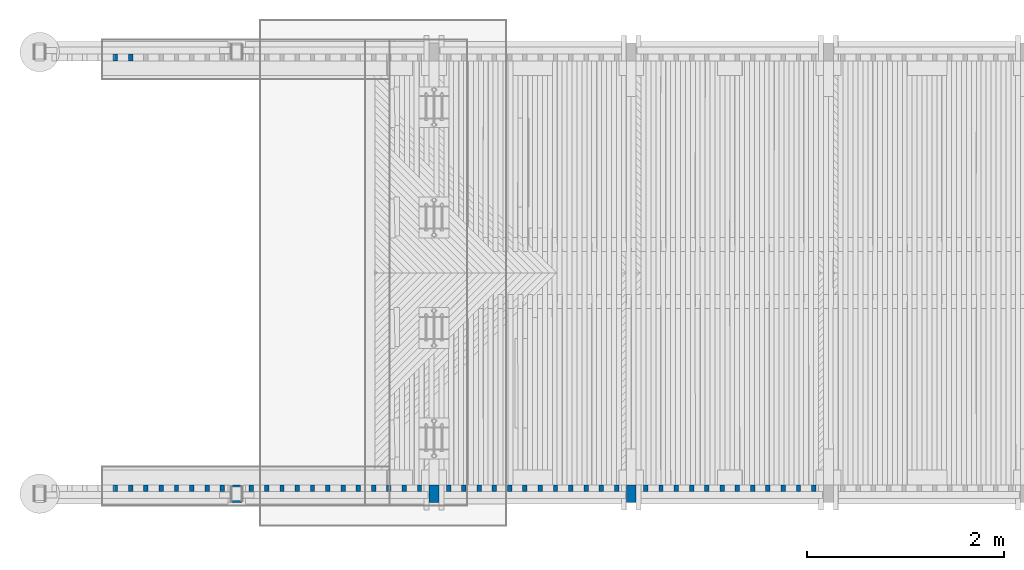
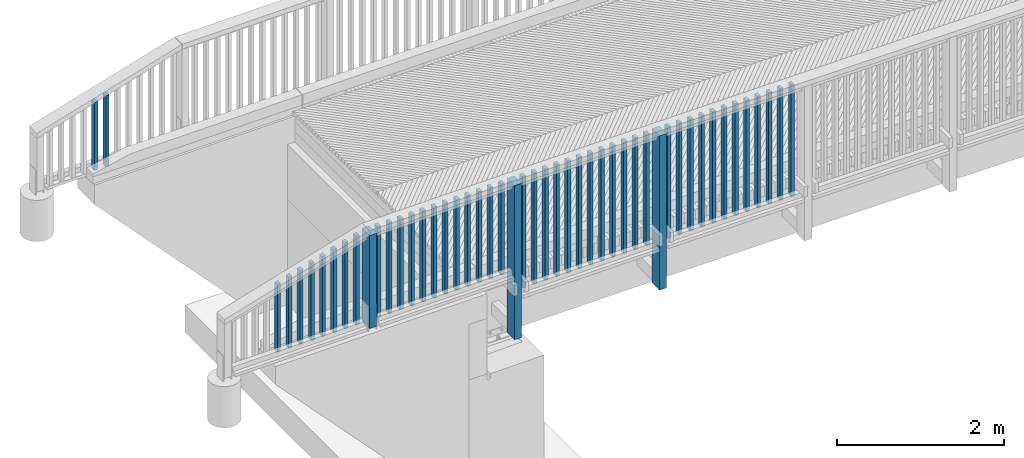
# One storey, part 6 of 52: 49 columns.
"""IFC2X3 building model written with IfcOpenShell, lengths in millimetres."""

from ifc_helpers import new_model, si_unit, frame, origin_with_axes, place, context, subcontext, project, spatial, faceted_brep, material, type_object, element, save


model = new_model("IFC2X3")

# Units and contexts
model_context = context("Model", 3, precision=1e-05, world=origin_with_axes())
body_context = subcontext(model_context, "Body", "Model", "MODEL_VIEW")
ifc_project = project(units=[si_unit("LENGTHUNIT", "METRE", prefix="MILLI"), si_unit("AREAUNIT", "SQUARE_METRE"), si_unit("VOLUMEUNIT", "CUBIC_METRE"), si_unit("MASSUNIT", "GRAM", prefix="KILO"), si_unit("TIMEUNIT", "SECOND"), si_unit("PLANEANGLEUNIT", "RADIAN"), si_unit("SOLIDANGLEUNIT", "STERADIAN"), si_unit("THERMODYNAMICTEMPERATUREUNIT", "DEGREE_CELSIUS"), si_unit("LUMINOUSINTENSITYUNIT", "LUMEN")], contexts=[model_context])

# Site, building, storey
site_placement = place(None, origin_with_axes())
site = spatial("IfcSite", under=ifc_project, at=site_placement, Name="Undefined", CompositionType="ELEMENT")
building_placement = place(site_placement, origin_with_axes())
building = spatial("IfcBuilding", under=site, at=building_placement, Name="Undefined", CompositionType="ELEMENT")
storey_placement = place(building_placement, origin_with_axes())
storey = spatial("IfcBuildingStorey", under=building, at=storey_placement, Name="Undefined", CompositionType="ELEMENT", Elevation=0.0)

# Columns
ifc_material = material(Name="TIMBER/Timber_Undefined")
column_type_1 = type_object("IfcColumnType", Name="180*100", PredefinedType="NOTDEFINED")
for number, where, z_axis, x_axis in (
    (1, (2000.00006783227, 125.01209190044, 2283.46176658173), (0.0, 1.0, 0.0), (0.0, 0.0, 1.0)),
    (2, (7.51175548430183e-07, 125.01209190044, 2260.26), (0.0, 1.0, 0.0), (0.0, 0.0, 1.0)),
):
    element("IfcColumn", number, at=place(storey_placement, frame(where, z_axis=z_axis, x_axis=x_axis)), inside=storey, type_object=column_type_1, material=ifc_material, Name="KAIDEPYLVÄS", ObjectType="180*100", context=body_context, shape_type="Brep", body=[
        faceted_brep([(0.0, 50.0, -90.0), (0.0, 50.0, 90.0), (2250.0, 50.0, 90.0), (2250.0, 50.0, -90.0), (0.0, -50.0, 90.0), (2250.0, -50.0, 90.0), (0.0, -50.0, -90.0), (2250.0, -50.0, -90.0)], [[[0, 1, 2, 3]], [[1, 4, 5, 2]], [[4, 6, 7, 5]], [[6, 0, 3, 7]], [[5, 7, 3, 2]], [[6, 4, 1, 0]]]),
    ])
column_1_placement = place(storey_placement, frame((-1999.99999924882, 125.01209190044, 3128.38000000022), z_axis=(0.0, 1.0, 0.0), x_axis=(0.0, 0.0, 1.0)))
element("IfcColumn", 3, at=column_1_placement, inside=storey, type_object=column_type_1, material=ifc_material, Name="KAIDEPYLVÄS", ObjectType="180*100", context=body_context, shape_type="Brep", body=[
    faceted_brep([(-5.71000000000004, 50.0, -90.0), (-5.71000000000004, 50.0, 90.0), (1352.87649222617, 50.0, 90.0), (1352.87649222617, 50.0, -90.0), (-5.71000000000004, -50.0, 90.0), (1351.21940355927, -50.0, 90.0), (-5.71000000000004, -50.0, -90.0), (1351.21940355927, -50.0, -90.0)], [[[0, 1, 2, 3]], [[1, 4, 5, 2]], [[4, 6, 7, 5]], [[6, 0, 3, 7]], [[5, 7, 3, 2]], [[6, 4, 1, 0]]]),
])
column_type_2 = type_object("IfcColumnType", Name="70*45", PredefinedType="NOTDEFINED")
column_2_placement = place(storey_placement, frame((-3077.49999924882, 4549.98790809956, 3079.15), z_axis=(0.0, 1.0, 0.0), x_axis=(0.0, 0.0, 1.0)))
element("IfcColumn", 4, at=column_2_placement, inside=storey, type_object=column_type_2, material=ifc_material, Name="BEAM", ObjectType="70*45", context=body_context, shape_type="Brep", body=[
    faceted_brep([(55.2401067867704, 22.5, -35.0), (55.2401067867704, 22.5, 35.0), (1098.27970598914, 22.5, 35.0), (1098.27970598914, 22.5, -35.0), (54.5531093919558, -22.5, 35.0), (1084.84420031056, -22.5, 35.0), (54.5531093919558, -22.5, -35.0), (1084.84420031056, -22.5, -35.0)], [[[0, 1, 2, 3]], [[1, 4, 5, 2]], [[4, 6, 7, 5]], [[6, 0, 3, 7]], [[5, 7, 3, 2]], [[6, 4, 1, 0]]]),
])
column_3_placement = place(storey_placement, frame((-3232.49999924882, 4549.98790809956, 3079.15), z_axis=(0.0, 1.0, 0.0), x_axis=(0.0, 0.0, 1.0)))
element("IfcColumn", 5, at=column_3_placement, inside=storey, type_object=column_type_2, material=ifc_material, Name="BEAM", ObjectType="70*45", context=body_context, shape_type="Brep", body=[
    faceted_brep([(52.8737824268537, 22.5, -35.0), (52.8737824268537, 22.5, 35.0), (1052.00185309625, 22.5, 35.0), (1052.00185309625, 22.5, -35.0), (52.1867850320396, -22.5, 35.0), (1038.56634741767, -22.5, 35.0), (52.1867850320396, -22.5, -35.0), (1038.56634741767, -22.5, -35.0)], [[[0, 1, 2, 3]], [[1, 4, 5, 2]], [[4, 6, 7, 5]], [[6, 0, 3, 7]], [[5, 7, 3, 2]], [[6, 4, 1, 0]]]),
])
column_4_placement = place(storey_placement, frame((3852.50000075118, 180.01209190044, 3109.68000000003), z_axis=(0.0, -1.0, 0.0), x_axis=(0.0, 0.0, 1.0)))
element("IfcColumn", 6, at=column_4_placement, inside=storey, type_object=column_type_2, material=ifc_material, Name="BEAM", ObjectType="70*45", context=body_context, shape_type="Brep", body=[
    faceted_brep([(-190.686194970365, 22.5, -35.0), (-190.686194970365, 22.5, 35.0), (1439.30722132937, 22.5, 35.0), (1439.30722132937, 22.5, -35.0), (-190.293697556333, -22.5, 35.0), (1439.6997187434, -22.5, 35.0), (-190.293697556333, -22.5, -35.0), (1439.6997187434, -22.5, -35.0)], [[[0, 1, 2, 3]], [[1, 4, 5, 2]], [[4, 6, 7, 5]], [[6, 0, 3, 7]], [[5, 7, 3, 2]], [[6, 4, 1, 0]]]),
])
column_5_placement = place(storey_placement, frame((3697.50000075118, 180.01209190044, 3109.68000000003), z_axis=(0.0, -1.0, 0.0), x_axis=(0.0, 0.0, 1.0)))
element("IfcColumn", 7, at=column_5_placement, inside=storey, type_object=column_type_2, material=ifc_material, Name="BEAM", ObjectType="70*45", context=body_context, shape_type="Brep", body=[
    faceted_brep([(-192.038130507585, 22.5, -35.0), (-192.038130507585, 22.5, 35.0), (1437.95528579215, 22.5, 35.0), (1437.95528579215, 22.5, -35.0), (-191.645633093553, -22.5, 35.0), (1438.34778320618, -22.5, 35.0), (-191.645633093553, -22.5, -35.0), (1438.34778320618, -22.5, -35.0)], [[[0, 1, 2, 3]], [[1, 4, 5, 2]], [[4, 6, 7, 5]], [[6, 0, 3, 7]], [[5, 7, 3, 2]], [[6, 4, 1, 0]]]),
])
column_6_placement = place(storey_placement, frame((3542.50000075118, 180.01209190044, 3109.68000000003), z_axis=(0.0, -1.0, 0.0), x_axis=(0.0, 0.0, 1.0)))
element("IfcColumn", 8, at=column_6_placement, inside=storey, type_object=column_type_2, material=ifc_material, Name="BEAM", ObjectType="70*45", context=body_context, shape_type="Brep", body=[
    faceted_brep([(-193.390066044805, 22.5, -35.0), (-193.390066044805, 22.5, 35.0), (1436.60335025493, 22.5, 35.0), (1436.60335025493, 22.5, -35.0), (-192.997568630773, -22.5, 35.0), (1436.99584766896, -22.5, 35.0), (-192.997568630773, -22.5, -35.0), (1436.99584766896, -22.5, -35.0)], [[[0, 1, 2, 3]], [[1, 4, 5, 2]], [[4, 6, 7, 5]], [[6, 0, 3, 7]], [[5, 7, 3, 2]], [[6, 4, 1, 0]]]),
])
column_7_placement = place(storey_placement, frame((3387.50000075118, 180.01209190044, 3109.68000000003), z_axis=(0.0, -1.0, 0.0), x_axis=(0.0, 0.0, 1.0)))
element("IfcColumn", 9, at=column_7_placement, inside=storey, type_object=column_type_2, material=ifc_material, Name="BEAM", ObjectType="70*45", context=body_context, shape_type="Brep", body=[
    faceted_brep([(-194.742001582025, 22.5, -35.0), (-194.742001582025, 22.5, 35.0), (1435.25141471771, 22.5, 35.0), (1435.25141471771, 22.5, -35.0), (-194.349504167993, -22.5, 35.0), (1435.64391213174, -22.5, 35.0), (-194.349504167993, -22.5, -35.0), (1435.64391213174, -22.5, -35.0)], [[[0, 1, 2, 3]], [[1, 4, 5, 2]], [[4, 6, 7, 5]], [[6, 0, 3, 7]], [[5, 7, 3, 2]], [[6, 4, 1, 0]]]),
])
column_8_placement = place(storey_placement, frame((3232.50000075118, 180.01209190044, 3109.68000000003), z_axis=(0.0, -1.0, 0.0), x_axis=(0.0, 0.0, 1.0)))
element("IfcColumn", 10, at=column_8_placement, inside=storey, type_object=column_type_2, material=ifc_material, Name="BEAM", ObjectType="70*45", context=body_context, shape_type="Brep", body=[
    faceted_brep([(-196.093937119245, 22.5, -35.0), (-196.093937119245, 22.5, 35.0), (1433.89947918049, 22.5, 35.0), (1433.89947918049, 22.5, -35.0), (-195.701439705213, -22.5, 35.0), (1434.29197659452, -22.5, 35.0), (-195.701439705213, -22.5, -35.0), (1434.29197659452, -22.5, -35.0)], [[[0, 1, 2, 3]], [[1, 4, 5, 2]], [[4, 6, 7, 5]], [[6, 0, 3, 7]], [[5, 7, 3, 2]], [[6, 4, 1, 0]]]),
])
column_9_placement = place(storey_placement, frame((3077.50000075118, 180.01209190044, 3109.68000000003), z_axis=(0.0, -1.0, 0.0), x_axis=(0.0, 0.0, 1.0)))
element("IfcColumn", 11, at=column_9_placement, inside=storey, type_object=column_type_2, material=ifc_material, Name="BEAM", ObjectType="70*45", context=body_context, shape_type="Brep", body=[
    faceted_brep([(-197.445872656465, 22.5, -35.0), (-197.445872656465, 22.5, 35.0), (1432.54754364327, 22.5, 35.0), (1432.54754364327, 22.5, -35.0), (-197.053375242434, -22.5, 35.0), (1432.9400410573, -22.5, 35.0), (-197.053375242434, -22.5, -35.0), (1432.9400410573, -22.5, -35.0)], [[[0, 1, 2, 3]], [[1, 4, 5, 2]], [[4, 6, 7, 5]], [[6, 0, 3, 7]], [[5, 7, 3, 2]], [[6, 4, 1, 0]]]),
])
column_10_placement = place(storey_placement, frame((2922.50000075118, 180.01209190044, 3109.68000000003), z_axis=(0.0, -1.0, 0.0), x_axis=(0.0, 0.0, 1.0)))
element("IfcColumn", 12, at=column_10_placement, inside=storey, type_object=column_type_2, material=ifc_material, Name="BEAM", ObjectType="70*45", context=body_context, shape_type="Brep", body=[
    faceted_brep([(-198.797808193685, 22.5, -35.0), (-198.797808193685, 22.5, 35.0), (1431.19560810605, 22.5, 35.0), (1431.19560810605, 22.5, -35.0), (-198.405310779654, -22.5, 35.0), (1431.58810552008, -22.5, 35.0), (-198.405310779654, -22.5, -35.0), (1431.58810552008, -22.5, -35.0)], [[[0, 1, 2, 3]], [[1, 4, 5, 2]], [[4, 6, 7, 5]], [[6, 0, 3, 7]], [[5, 7, 3, 2]], [[6, 4, 1, 0]]]),
])
column_11_placement = place(storey_placement, frame((2767.50000075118, 180.01209190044, 3109.68000000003), z_axis=(0.0, -1.0, 0.0), x_axis=(0.0, 0.0, 1.0)))
element("IfcColumn", 13, at=column_11_placement, inside=storey, type_object=column_type_2, material=ifc_material, Name="BEAM", ObjectType="70*45", context=body_context, shape_type="Brep", body=[
    faceted_brep([(-200.149743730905, 22.5, -35.0), (-200.149743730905, 22.5, 35.0), (1429.84367256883, 22.5, 35.0), (1429.84367256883, 22.5, -35.0), (-199.757246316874, -22.5, 35.0), (1430.23616998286, -22.5, 35.0), (-199.757246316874, -22.5, -35.0), (1430.23616998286, -22.5, -35.0)], [[[0, 1, 2, 3]], [[1, 4, 5, 2]], [[4, 6, 7, 5]], [[6, 0, 3, 7]], [[5, 7, 3, 2]], [[6, 4, 1, 0]]]),
])
column_12_placement = place(storey_placement, frame((2612.50000075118, 180.01209190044, 3109.68000000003), z_axis=(0.0, -1.0, 0.0), x_axis=(0.0, 0.0, 1.0)))
element("IfcColumn", 14, at=column_12_placement, inside=storey, type_object=column_type_2, material=ifc_material, Name="BEAM", ObjectType="70*45", context=body_context, shape_type="Brep", body=[
    faceted_brep([(-201.501679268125, 22.5, -35.0), (-201.501679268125, 22.5, 35.0), (1428.49173703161, 22.5, 35.0), (1428.49173703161, 22.5, -35.0), (-201.109181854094, -22.5, 35.0), (1428.88423444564, -22.5, 35.0), (-201.109181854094, -22.5, -35.0), (1428.88423444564, -22.5, -35.0)], [[[0, 1, 2, 3]], [[1, 4, 5, 2]], [[4, 6, 7, 5]], [[6, 0, 3, 7]], [[5, 7, 3, 2]], [[6, 4, 1, 0]]]),
])
column_13_placement = place(storey_placement, frame((2457.50000075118, 180.01209190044, 3109.68000000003), z_axis=(0.0, -1.0, 0.0), x_axis=(0.0, 0.0, 1.0)))
element("IfcColumn", 15, at=column_13_placement, inside=storey, type_object=column_type_2, material=ifc_material, Name="BEAM", ObjectType="70*45", context=body_context, shape_type="Brep", body=[
    faceted_brep([(-202.853614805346, 22.5, -35.0), (-202.853614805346, 22.5, 35.0), (1427.13980149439, 22.5, 35.0), (1427.13980149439, 22.5, -35.0), (-202.461117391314, -22.5, 35.0), (1427.53229890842, -22.5, 35.0), (-202.461117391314, -22.5, -35.0), (1427.53229890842, -22.5, -35.0)], [[[0, 1, 2, 3]], [[1, 4, 5, 2]], [[4, 6, 7, 5]], [[6, 0, 3, 7]], [[5, 7, 3, 2]], [[6, 4, 1, 0]]]),
])
column_14_placement = place(storey_placement, frame((2302.50000075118, 180.01209190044, 3109.68000000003), z_axis=(0.0, -1.0, 0.0), x_axis=(0.0, 0.0, 1.0)))
element("IfcColumn", 16, at=column_14_placement, inside=storey, type_object=column_type_2, material=ifc_material, Name="BEAM", ObjectType="70*45", context=body_context, shape_type="Brep", body=[
    faceted_brep([(-204.205550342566, 22.5, -35.0), (-204.205550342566, 22.5, 35.0), (1425.78786595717, 22.5, 35.0), (1425.78786595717, 22.5, -35.0), (-203.813052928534, -22.5, 35.0), (1426.1803633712, -22.5, 35.0), (-203.813052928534, -22.5, -35.0), (1426.1803633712, -22.5, -35.0)], [[[0, 1, 2, 3]], [[1, 4, 5, 2]], [[4, 6, 7, 5]], [[6, 0, 3, 7]], [[5, 7, 3, 2]], [[6, 4, 1, 0]]]),
])
column_15_placement = place(storey_placement, frame((2147.50000075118, 180.01209190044, 3109.68000000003), z_axis=(0.0, -1.0, 0.0), x_axis=(0.0, 0.0, 1.0)))
element("IfcColumn", 17, at=column_15_placement, inside=storey, type_object=column_type_2, material=ifc_material, Name="BEAM", ObjectType="70*45", context=body_context, shape_type="Brep", body=[
    faceted_brep([(-205.557485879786, 22.5, -35.0), (-205.557485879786, 22.5, 35.0), (1424.43593041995, 22.5, 35.0), (1424.43593041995, 22.5, -35.0), (-205.164988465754, -22.5, 35.0), (1424.82842783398, -22.5, 35.0), (-205.164988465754, -22.5, -35.0), (1424.82842783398, -22.5, -35.0)], [[[0, 1, 2, 3]], [[1, 4, 5, 2]], [[4, 6, 7, 5]], [[6, 0, 3, 7]], [[5, 7, 3, 2]], [[6, 4, 1, 0]]]),
])
column_16_placement = place(storey_placement, frame((1852.50000075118, 180.01209190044, 3109.68000000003), z_axis=(0.0, -1.0, 0.0), x_axis=(0.0, 0.0, 1.0)))
element("IfcColumn", 18, at=column_16_placement, inside=storey, type_object=column_type_2, material=ifc_material, Name="BEAM", ObjectType="70*45", context=body_context, shape_type="Brep", body=[
    faceted_brep([(-207.679580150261, 22.5, -35.0), (-207.679580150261, 22.5, 35.0), (1422.31639554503, 22.5, 35.0), (1422.31639554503, 22.5, -35.0), (-207.130064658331, -22.5, 35.0), (1422.86591004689, -22.5, 35.0), (-207.130064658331, -22.5, -35.0), (1422.86591004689, -22.5, -35.0)], [[[0, 1, 2, 3]], [[1, 4, 5, 2]], [[4, 6, 7, 5]], [[6, 0, 3, 7]], [[5, 7, 3, 2]], [[6, 4, 1, 0]]]),
])
column_17_placement = place(storey_placement, frame((1697.50000075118, 180.01209190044, 3109.68000000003), z_axis=(0.0, -1.0, 0.0), x_axis=(0.0, 0.0, 1.0)))
element("IfcColumn", 19, at=column_17_placement, inside=storey, type_object=column_type_2, material=ifc_material, Name="BEAM", ObjectType="70*45", context=body_context, shape_type="Brep", body=[
    faceted_brep([(-209.572355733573, 22.5, -35.0), (-209.572355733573, 22.5, 35.0), (1420.42362337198, 22.5, 35.0), (1420.42362337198, 22.5, -35.0), (-209.022840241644, -22.5, 35.0), (1420.97313787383, -22.5, 35.0), (-209.022840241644, -22.5, -35.0), (1420.97313787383, -22.5, -35.0)], [[[0, 1, 2, 3]], [[1, 4, 5, 2]], [[4, 6, 7, 5]], [[6, 0, 3, 7]], [[5, 7, 3, 2]], [[6, 4, 1, 0]]]),
])
column_18_placement = place(storey_placement, frame((1542.50000075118, 180.01209190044, 3109.68000000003), z_axis=(0.0, -1.0, 0.0), x_axis=(0.0, 0.0, 1.0)))
element("IfcColumn", 20, at=column_18_placement, inside=storey, type_object=column_type_2, material=ifc_material, Name="BEAM", ObjectType="70*45", context=body_context, shape_type="Brep", body=[
    faceted_brep([(-211.465131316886, 22.5, -35.0), (-211.465131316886, 22.5, 35.0), (1418.53085119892, 22.5, 35.0), (1418.53085119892, 22.5, -35.0), (-210.915615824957, -22.5, 35.0), (1419.08036570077, -22.5, 35.0), (-210.915615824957, -22.5, -35.0), (1419.08036570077, -22.5, -35.0)], [[[0, 1, 2, 3]], [[1, 4, 5, 2]], [[4, 6, 7, 5]], [[6, 0, 3, 7]], [[5, 7, 3, 2]], [[6, 4, 1, 0]]]),
])
column_19_placement = place(storey_placement, frame((1387.50000075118, 180.01209190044, 3109.68000000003), z_axis=(0.0, -1.0, 0.0), x_axis=(0.0, 0.0, 1.0)))
element("IfcColumn", 21, at=column_19_placement, inside=storey, type_object=column_type_2, material=ifc_material, Name="BEAM", ObjectType="70*45", context=body_context, shape_type="Brep", body=[
    faceted_brep([(-213.357906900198, 22.5, -35.0), (-213.357906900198, 22.5, 35.0), (1416.63807902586, 22.5, 35.0), (1416.63807902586, 22.5, -35.0), (-212.808391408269, -22.5, 35.0), (1417.18759352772, -22.5, 35.0), (-212.808391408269, -22.5, -35.0), (1417.18759352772, -22.5, -35.0)], [[[0, 1, 2, 3]], [[1, 4, 5, 2]], [[4, 6, 7, 5]], [[6, 0, 3, 7]], [[5, 7, 3, 2]], [[6, 4, 1, 0]]]),
])
column_20_placement = place(storey_placement, frame((1232.50000075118, 180.01209190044, 3109.68000000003), z_axis=(0.0, -1.0, 0.0), x_axis=(0.0, 0.0, 1.0)))
element("IfcColumn", 22, at=column_20_placement, inside=storey, type_object=column_type_2, material=ifc_material, Name="BEAM", ObjectType="70*45", context=body_context, shape_type="Brep", body=[
    faceted_brep([(-215.250682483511, 22.5, -35.0), (-215.250682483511, 22.5, 35.0), (1414.7453068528, 22.5, 35.0), (1414.7453068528, 22.5, -35.0), (-214.701166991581, -22.5, 35.0), (1415.29482135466, -22.5, 35.0), (-214.701166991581, -22.5, -35.0), (1415.29482135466, -22.5, -35.0)], [[[0, 1, 2, 3]], [[1, 4, 5, 2]], [[4, 6, 7, 5]], [[6, 0, 3, 7]], [[5, 7, 3, 2]], [[6, 4, 1, 0]]]),
])
column_21_placement = place(storey_placement, frame((1077.50000075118, 180.01209190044, 3109.68000000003), z_axis=(0.0, -1.0, 0.0), x_axis=(0.0, 0.0, 1.0)))
element("IfcColumn", 23, at=column_21_placement, inside=storey, type_object=column_type_2, material=ifc_material, Name="BEAM", ObjectType="70*45", context=body_context, shape_type="Brep", body=[
    faceted_brep([(-217.143458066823, 22.5, -35.0), (-217.143458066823, 22.5, 35.0), (1412.85253467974, 22.5, 35.0), (1412.85253467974, 22.5, -35.0), (-216.593942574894, -22.5, 35.0), (1413.4020491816, -22.5, 35.0), (-216.593942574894, -22.5, -35.0), (1413.4020491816, -22.5, -35.0)], [[[0, 1, 2, 3]], [[1, 4, 5, 2]], [[4, 6, 7, 5]], [[6, 0, 3, 7]], [[5, 7, 3, 2]], [[6, 4, 1, 0]]]),
])
column_22_placement = place(storey_placement, frame((922.500000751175, 180.01209190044, 3109.68000000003), z_axis=(0.0, -1.0, 0.0), x_axis=(0.0, 0.0, 1.0)))
element("IfcColumn", 24, at=column_22_placement, inside=storey, type_object=column_type_2, material=ifc_material, Name="BEAM", ObjectType="70*45", context=body_context, shape_type="Brep", body=[
    faceted_brep([(-219.036233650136, 22.5, -35.0), (-219.036233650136, 22.5, 35.0), (1410.95976250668, 22.5, 35.0), (1410.95976250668, 22.5, -35.0), (-218.486718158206, -22.5, 35.0), (1411.50927700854, -22.5, 35.0), (-218.486718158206, -22.5, -35.0), (1411.50927700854, -22.5, -35.0)], [[[0, 1, 2, 3]], [[1, 4, 5, 2]], [[4, 6, 7, 5]], [[6, 0, 3, 7]], [[5, 7, 3, 2]], [[6, 4, 1, 0]]]),
])
column_23_placement = place(storey_placement, frame((767.500000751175, 180.01209190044, 3109.68000000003), z_axis=(0.0, -1.0, 0.0), x_axis=(0.0, 0.0, 1.0)))
element("IfcColumn", 25, at=column_23_placement, inside=storey, type_object=column_type_2, material=ifc_material, Name="BEAM", ObjectType="70*45", context=body_context, shape_type="Brep", body=[
    faceted_brep([(-220.929009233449, 22.5, -35.0), (-220.929009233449, 22.5, 35.0), (1409.06699033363, 22.5, 35.0), (1409.06699033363, 22.5, -35.0), (-220.379493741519, -22.5, 35.0), (1409.61650483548, -22.5, 35.0), (-220.379493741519, -22.5, -35.0), (1409.61650483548, -22.5, -35.0)], [[[0, 1, 2, 3]], [[1, 4, 5, 2]], [[4, 6, 7, 5]], [[6, 0, 3, 7]], [[5, 7, 3, 2]], [[6, 4, 1, 0]]]),
])
column_24_placement = place(storey_placement, frame((612.500000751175, 180.01209190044, 3109.68000000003), z_axis=(0.0, -1.0, 0.0), x_axis=(0.0, 0.0, 1.0)))
element("IfcColumn", 26, at=column_24_placement, inside=storey, type_object=column_type_2, material=ifc_material, Name="BEAM", ObjectType="70*45", context=body_context, shape_type="Brep", body=[
    faceted_brep([(-222.821784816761, 22.5, -35.0), (-222.821784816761, 22.5, 35.0), (1407.17421816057, 22.5, 35.0), (1407.17421816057, 22.5, -35.0), (-222.272269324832, -22.5, 35.0), (1407.72373266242, -22.5, 35.0), (-222.272269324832, -22.5, -35.0), (1407.72373266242, -22.5, -35.0)], [[[0, 1, 2, 3]], [[1, 4, 5, 2]], [[4, 6, 7, 5]], [[6, 0, 3, 7]], [[5, 7, 3, 2]], [[6, 4, 1, 0]]]),
])
column_25_placement = place(storey_placement, frame((457.500000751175, 180.01209190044, 3109.68000000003), z_axis=(0.0, -1.0, 0.0), x_axis=(0.0, 0.0, 1.0)))
element("IfcColumn", 27, at=column_25_placement, inside=storey, type_object=column_type_2, material=ifc_material, Name="BEAM", ObjectType="70*45", context=body_context, shape_type="Brep", body=[
    faceted_brep([(-224.714560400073, 22.5, -35.0), (-224.714560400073, 22.5, 35.0), (1405.28144598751, 22.5, 35.0), (1405.28144598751, 22.5, -35.0), (-224.165044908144, -22.5, 35.0), (1405.83096048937, -22.5, 35.0), (-224.165044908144, -22.5, -35.0), (1405.83096048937, -22.5, -35.0)], [[[0, 1, 2, 3]], [[1, 4, 5, 2]], [[4, 6, 7, 5]], [[6, 0, 3, 7]], [[5, 7, 3, 2]], [[6, 4, 1, 0]]]),
])
column_26_placement = place(storey_placement, frame((302.500000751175, 180.01209190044, 3109.68000000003), z_axis=(0.0, -1.0, 0.0), x_axis=(0.0, 0.0, 1.0)))
element("IfcColumn", 28, at=column_26_placement, inside=storey, type_object=column_type_2, material=ifc_material, Name="BEAM", ObjectType="70*45", context=body_context, shape_type="Brep", body=[
    faceted_brep([(-226.607335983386, 22.5, -35.0), (-226.607335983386, 22.5, 35.0), (1403.38867381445, 22.5, 35.0), (1403.38867381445, 22.5, -35.0), (-226.057820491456, -22.5, 35.0), (1403.93818831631, -22.5, 35.0), (-226.057820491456, -22.5, -35.0), (1403.93818831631, -22.5, -35.0)], [[[0, 1, 2, 3]], [[1, 4, 5, 2]], [[4, 6, 7, 5]], [[6, 0, 3, 7]], [[5, 7, 3, 2]], [[6, 4, 1, 0]]]),
])
column_27_placement = place(storey_placement, frame((147.500000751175, 180.01209190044, 3109.68000000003), z_axis=(0.0, -1.0, 0.0), x_axis=(0.0, 0.0, 1.0)))
element("IfcColumn", 29, at=column_27_placement, inside=storey, type_object=column_type_2, material=ifc_material, Name="BEAM", ObjectType="70*45", context=body_context, shape_type="Brep", body=[
    faceted_brep([(-228.500111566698, 22.5, -35.0), (-228.500111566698, 22.5, 35.0), (1401.49590164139, 22.5, 35.0), (1401.49590164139, 22.5, -35.0), (-227.950596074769, -22.5, 35.0), (1402.04541614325, -22.5, 35.0), (-227.950596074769, -22.5, -35.0), (1402.04541614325, -22.5, -35.0)], [[[0, 1, 2, 3]], [[1, 4, 5, 2]], [[4, 6, 7, 5]], [[6, 0, 3, 7]], [[5, 7, 3, 2]], [[6, 4, 1, 0]]]),
])
column_28_placement = place(storey_placement, frame((-2147.49999924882, 180.01209190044, 3079.15), z_axis=(0.0, -1.0, 0.0), x_axis=(0.0, 0.0, 1.0)))
element("IfcColumn", 30, at=column_28_placement, inside=storey, type_object=column_type_2, material=ifc_material, Name="BEAM", ObjectType="70*45", context=body_context, shape_type="Brep", body=[
    faceted_brep([(68.7510555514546, 22.5, -35.0), (68.7510555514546, 22.5, 35.0), (1362.51131766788, 22.5, 35.0), (1362.51131766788, 22.5, -35.0), (69.4380529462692, -22.5, 35.0), (1375.94682334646, -22.5, 35.0), (69.4380529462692, -22.5, -35.0), (1375.94682334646, -22.5, -35.0)], [[[0, 1, 2, 3]], [[1, 4, 5, 2]], [[4, 6, 7, 5]], [[6, 0, 3, 7]], [[5, 7, 3, 2]], [[6, 4, 1, 0]]]),
])
column_29_placement = place(storey_placement, frame((-2302.49999924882, 180.01209190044, 3079.15), z_axis=(0.0, -1.0, 0.0), x_axis=(0.0, 0.0, 1.0)))
element("IfcColumn", 31, at=column_29_placement, inside=storey, type_object=column_type_2, material=ifc_material, Name="BEAM", ObjectType="70*45", context=body_context, shape_type="Brep", body=[
    faceted_brep([(66.3847311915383, 22.5, -35.0), (66.3847311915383, 22.5, 35.0), (1316.23346477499, 22.5, 35.0), (1316.23346477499, 22.5, -35.0), (67.0717285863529, -22.5, 35.0), (1329.66897045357, -22.5, 35.0), (67.0717285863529, -22.5, -35.0), (1329.66897045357, -22.5, -35.0)], [[[0, 1, 2, 3]], [[1, 4, 5, 2]], [[4, 6, 7, 5]], [[6, 0, 3, 7]], [[5, 7, 3, 2]], [[6, 4, 1, 0]]]),
])
column_30_placement = place(storey_placement, frame((-2457.49999924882, 180.01209190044, 3079.15), z_axis=(0.0, -1.0, 0.0), x_axis=(0.0, 0.0, 1.0)))
element("IfcColumn", 32, at=column_30_placement, inside=storey, type_object=column_type_2, material=ifc_material, Name="BEAM", ObjectType="70*45", context=body_context, shape_type="Brep", body=[
    faceted_brep([(64.0184068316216, 22.5, -35.0), (64.0184068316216, 22.5, 35.0), (1269.95561188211, 22.5, 35.0), (1269.95561188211, 22.5, -35.0), (64.7054042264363, -22.5, 35.0), (1283.39111756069, -22.5, 35.0), (64.7054042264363, -22.5, -35.0), (1283.39111756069, -22.5, -35.0)], [[[0, 1, 2, 3]], [[1, 4, 5, 2]], [[4, 6, 7, 5]], [[6, 0, 3, 7]], [[5, 7, 3, 2]], [[6, 4, 1, 0]]]),
])
column_31_placement = place(storey_placement, frame((-2612.49999924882, 180.01209190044, 3079.15), z_axis=(0.0, -1.0, 0.0), x_axis=(0.0, 0.0, 1.0)))
element("IfcColumn", 33, at=column_31_placement, inside=storey, type_object=column_type_2, material=ifc_material, Name="BEAM", ObjectType="70*45", context=body_context, shape_type="Brep", body=[
    faceted_brep([(61.6520824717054, 22.5, -35.0), (61.6520824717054, 22.5, 35.0), (1223.67775898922, 22.5, 35.0), (1223.67775898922, 22.5, -35.0), (62.3390798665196, -22.5, 35.0), (1237.1132646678, -22.5, 35.0), (62.3390798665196, -22.5, -35.0), (1237.1132646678, -22.5, -35.0)], [[[0, 1, 2, 3]], [[1, 4, 5, 2]], [[4, 6, 7, 5]], [[6, 0, 3, 7]], [[5, 7, 3, 2]], [[6, 4, 1, 0]]]),
])
column_32_placement = place(storey_placement, frame((-2767.49999924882, 180.01209190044, 3079.15), z_axis=(0.0, -1.0, 0.0), x_axis=(0.0, 0.0, 1.0)))
element("IfcColumn", 34, at=column_32_placement, inside=storey, type_object=column_type_2, material=ifc_material, Name="BEAM", ObjectType="70*45", context=body_context, shape_type="Brep", body=[
    faceted_brep([(59.2857581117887, 22.5, -35.0), (59.2857581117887, 22.5, 35.0), (1177.39990609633, 22.5, 35.0), (1177.39990609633, 22.5, -35.0), (59.9727555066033, -22.5, 35.0), (1190.83541177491, -22.5, 35.0), (59.9727555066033, -22.5, -35.0), (1190.83541177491, -22.5, -35.0)], [[[0, 1, 2, 3]], [[1, 4, 5, 2]], [[4, 6, 7, 5]], [[6, 0, 3, 7]], [[5, 7, 3, 2]], [[6, 4, 1, 0]]]),
])
column_33_placement = place(storey_placement, frame((-2922.49999924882, 180.01209190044, 3079.15), z_axis=(0.0, -1.0, 0.0), x_axis=(0.0, 0.0, 1.0)))
element("IfcColumn", 35, at=column_33_placement, inside=storey, type_object=column_type_2, material=ifc_material, Name="BEAM", ObjectType="70*45", context=body_context, shape_type="Brep", body=[
    faceted_brep([(56.9194337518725, 22.5, -35.0), (56.9194337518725, 22.5, 35.0), (1131.12205320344, 22.5, 35.0), (1131.12205320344, 22.5, -35.0), (57.6064311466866, -22.5, 35.0), (1144.55755888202, -22.5, 35.0), (57.6064311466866, -22.5, -35.0), (1144.55755888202, -22.5, -35.0)], [[[0, 1, 2, 3]], [[1, 4, 5, 2]], [[4, 6, 7, 5]], [[6, 0, 3, 7]], [[5, 7, 3, 2]], [[6, 4, 1, 0]]]),
])
column_34_placement = place(storey_placement, frame((-3077.49999924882, 180.01209190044, 3079.15), z_axis=(0.0, -1.0, 0.0), x_axis=(0.0, 0.0, 1.0)))
element("IfcColumn", 36, at=column_34_placement, inside=storey, type_object=column_type_2, material=ifc_material, Name="BEAM", ObjectType="70*45", context=body_context, shape_type="Brep", body=[
    faceted_brep([(54.5531093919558, 22.5, -35.0), (54.5531093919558, 22.5, 35.0), (1084.84420031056, 22.5, 35.0), (1084.84420031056, 22.5, -35.0), (55.2401067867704, -22.5, 35.0), (1098.27970598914, -22.5, 35.0), (55.2401067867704, -22.5, -35.0), (1098.27970598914, -22.5, -35.0)], [[[0, 1, 2, 3]], [[1, 4, 5, 2]], [[4, 6, 7, 5]], [[6, 0, 3, 7]], [[5, 7, 3, 2]], [[6, 4, 1, 0]]]),
])
column_35_placement = place(storey_placement, frame((-3232.49999924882, 180.01209190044, 3079.15), z_axis=(0.0, -1.0, 0.0), x_axis=(0.0, 0.0, 1.0)))
element("IfcColumn", 37, at=column_35_placement, inside=storey, type_object=column_type_2, material=ifc_material, Name="BEAM", ObjectType="70*45", context=body_context, shape_type="Brep", body=[
    faceted_brep([(52.1867850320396, 22.5, -35.0), (52.1867850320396, 22.5, 35.0), (1038.56634741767, 22.5, 35.0), (1038.56634741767, 22.5, -35.0), (52.8737824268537, -22.5, 35.0), (1052.00185309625, -22.5, 35.0), (52.8737824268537, -22.5, -35.0), (1052.00185309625, -22.5, -35.0)], [[[0, 1, 2, 3]], [[1, 4, 5, 2]], [[4, 6, 7, 5]], [[6, 0, 3, 7]], [[5, 7, 3, 2]], [[6, 4, 1, 0]]]),
])
column_36_placement = place(storey_placement, frame((-147.499999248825, 180.01209190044, 3109.68000000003), z_axis=(0.0, -1.0, 0.0), x_axis=(0.0, 0.0, 1.0)))
element("IfcColumn", 38, at=column_36_placement, inside=storey, type_object=column_type_2, material=ifc_material, Name="BEAM", ObjectType="70*45", context=body_context, shape_type="Brep", body=[
    faceted_brep([(68.7510555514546, 22.5, -35.0), (68.7510555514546, 22.5, 35.0), (1398.75105555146, 22.5, 35.0), (1398.75105555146, 22.5, -35.0), (69.4380529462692, -22.5, 35.0), (1399.43805294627, -22.5, 35.0), (69.4380529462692, -22.5, -35.0), (1399.43805294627, -22.5, -35.0)], [[[0, 1, 2, 3]], [[1, 4, 5, 2]], [[4, 6, 7, 5]], [[6, 0, 3, 7]], [[5, 7, 3, 2]], [[6, 4, 1, 0]]]),
])
column_37_placement = place(storey_placement, frame((-302.499999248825, 180.01209190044, 3109.68000000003), z_axis=(0.0, -1.0, 0.0), x_axis=(0.0, 0.0, 1.0)))
element("IfcColumn", 39, at=column_37_placement, inside=storey, type_object=column_type_2, material=ifc_material, Name="BEAM", ObjectType="70*45", context=body_context, shape_type="Brep", body=[
    faceted_brep([(66.3847311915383, 22.5, -35.0), (66.3847311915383, 22.5, 35.0), (1396.38473119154, 22.5, 35.0), (1396.38473119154, 22.5, -35.0), (67.0717285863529, -22.5, 35.0), (1397.07172858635, -22.5, 35.0), (67.0717285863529, -22.5, -35.0), (1397.07172858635, -22.5, -35.0)], [[[0, 1, 2, 3]], [[1, 4, 5, 2]], [[4, 6, 7, 5]], [[6, 0, 3, 7]], [[5, 7, 3, 2]], [[6, 4, 1, 0]]]),
])
column_38_placement = place(storey_placement, frame((-457.499999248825, 180.01209190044, 3109.68000000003), z_axis=(0.0, -1.0, 0.0), x_axis=(0.0, 0.0, 1.0)))
element("IfcColumn", 40, at=column_38_placement, inside=storey, type_object=column_type_2, material=ifc_material, Name="BEAM", ObjectType="70*45", context=body_context, shape_type="Brep", body=[
    faceted_brep([(64.0184068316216, 22.5, -35.0), (64.0184068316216, 22.5, 35.0), (1394.01840683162, 22.5, 35.0), (1394.01840683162, 22.5, -35.0), (64.7054042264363, -22.5, 35.0), (1394.70540422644, -22.5, 35.0), (64.7054042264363, -22.5, -35.0), (1394.70540422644, -22.5, -35.0)], [[[0, 1, 2, 3]], [[1, 4, 5, 2]], [[4, 6, 7, 5]], [[6, 0, 3, 7]], [[5, 7, 3, 2]], [[6, 4, 1, 0]]]),
])
column_39_placement = place(storey_placement, frame((-612.499999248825, 180.01209190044, 3109.68000000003), z_axis=(0.0, -1.0, 0.0), x_axis=(0.0, 0.0, 1.0)))
element("IfcColumn", 41, at=column_39_placement, inside=storey, type_object=column_type_2, material=ifc_material, Name="BEAM", ObjectType="70*45", context=body_context, shape_type="Brep", body=[
    faceted_brep([(61.6520824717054, 22.5, -35.0), (61.6520824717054, 22.5, 35.0), (1391.65208247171, 22.5, 35.0), (1391.65208247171, 22.5, -35.0), (62.3390798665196, -22.5, 35.0), (1392.33907986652, -22.5, 35.0), (62.3390798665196, -22.5, -35.0), (1392.33907986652, -22.5, -35.0)], [[[0, 1, 2, 3]], [[1, 4, 5, 2]], [[4, 6, 7, 5]], [[6, 0, 3, 7]], [[5, 7, 3, 2]], [[6, 4, 1, 0]]]),
])
column_40_placement = place(storey_placement, frame((-767.499999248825, 180.01209190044, 3109.68000000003), z_axis=(0.0, -1.0, 0.0), x_axis=(0.0, 0.0, 1.0)))
element("IfcColumn", 42, at=column_40_placement, inside=storey, type_object=column_type_2, material=ifc_material, Name="BEAM", ObjectType="70*45", context=body_context, shape_type="Brep", body=[
    faceted_brep([(59.2857581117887, 22.5, -35.0), (59.2857581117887, 22.5, 35.0), (1389.28575811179, 22.5, 35.0), (1389.28575811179, 22.5, -35.0), (59.9727555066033, -22.5, 35.0), (1389.97275550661, -22.5, 35.0), (59.9727555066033, -22.5, -35.0), (1389.97275550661, -22.5, -35.0)], [[[0, 1, 2, 3]], [[1, 4, 5, 2]], [[4, 6, 7, 5]], [[6, 0, 3, 7]], [[5, 7, 3, 2]], [[6, 4, 1, 0]]]),
])
column_41_placement = place(storey_placement, frame((-922.499999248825, 180.01209190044, 3109.68000000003), z_axis=(0.0, -1.0, 0.0), x_axis=(0.0, 0.0, 1.0)))
element("IfcColumn", 43, at=column_41_placement, inside=storey, type_object=column_type_2, material=ifc_material, Name="BEAM", ObjectType="70*45", context=body_context, shape_type="Brep", body=[
    faceted_brep([(56.9194337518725, 22.5, -35.0), (56.9194337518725, 22.5, 35.0), (1386.91943375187, 22.5, 35.0), (1386.91943375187, 22.5, -35.0), (57.6064311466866, -22.5, 35.0), (1387.60643114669, -22.5, 35.0), (57.6064311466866, -22.5, -35.0), (1387.60643114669, -22.5, -35.0)], [[[0, 1, 2, 3]], [[1, 4, 5, 2]], [[4, 6, 7, 5]], [[6, 0, 3, 7]], [[5, 7, 3, 2]], [[6, 4, 1, 0]]]),
])
column_42_placement = place(storey_placement, frame((-1077.49999924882, 180.01209190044, 3109.68000000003), z_axis=(0.0, -1.0, 0.0), x_axis=(0.0, 0.0, 1.0)))
element("IfcColumn", 44, at=column_42_placement, inside=storey, type_object=column_type_2, material=ifc_material, Name="BEAM", ObjectType="70*45", context=body_context, shape_type="Brep", body=[
    faceted_brep([(54.5531093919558, 22.5, -35.0), (54.5531093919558, 22.5, 35.0), (1384.55310939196, 22.5, 35.0), (1384.55310939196, 22.5, -35.0), (55.2401067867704, -22.5, 35.0), (1385.24010678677, -22.5, 35.0), (55.2401067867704, -22.5, -35.0), (1385.24010678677, -22.5, -35.0)], [[[0, 1, 2, 3]], [[1, 4, 5, 2]], [[4, 6, 7, 5]], [[6, 0, 3, 7]], [[5, 7, 3, 2]], [[6, 4, 1, 0]]]),
])
column_43_placement = place(storey_placement, frame((-1232.49999924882, 180.01209190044, 3109.68000000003), z_axis=(0.0, -1.0, 0.0), x_axis=(0.0, 0.0, 1.0)))
element("IfcColumn", 45, at=column_43_placement, inside=storey, type_object=column_type_2, material=ifc_material, Name="BEAM", ObjectType="70*45", context=body_context, shape_type="Brep", body=[
    faceted_brep([(52.1867850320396, 22.5, -35.0), (52.1867850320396, 22.5, 35.0), (1382.18678503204, 22.5, 35.0), (1382.18678503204, 22.5, -35.0), (52.8737824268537, -22.5, 35.0), (1382.87378242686, -22.5, 35.0), (52.8737824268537, -22.5, -35.0), (1382.87378242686, -22.5, -35.0)], [[[0, 1, 2, 3]], [[1, 4, 5, 2]], [[4, 6, 7, 5]], [[6, 0, 3, 7]], [[5, 7, 3, 2]], [[6, 4, 1, 0]]]),
])
column_44_placement = place(storey_placement, frame((-1387.49999924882, 180.01209190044, 3109.68000000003), z_axis=(0.0, -1.0, 0.0), x_axis=(0.0, 0.0, 1.0)))
element("IfcColumn", 46, at=column_44_placement, inside=storey, type_object=column_type_2, material=ifc_material, Name="BEAM", ObjectType="70*45", context=body_context, shape_type="Brep", body=[
    faceted_brep([(49.8204606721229, 22.5, -35.0), (49.8204606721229, 22.5, 35.0), (1379.82046067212, 22.5, 35.0), (1379.82046067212, 22.5, -35.0), (50.5074580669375, -22.5, 35.0), (1380.50745806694, -22.5, 35.0), (50.5074580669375, -22.5, -35.0), (1380.50745806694, -22.5, -35.0)], [[[0, 1, 2, 3]], [[1, 4, 5, 2]], [[4, 6, 7, 5]], [[6, 0, 3, 7]], [[5, 7, 3, 2]], [[6, 4, 1, 0]]]),
])
column_45_placement = place(storey_placement, frame((-1542.49999924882, 180.01209190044, 3109.68000000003), z_axis=(0.0, -1.0, 0.0), x_axis=(0.0, 0.0, 1.0)))
element("IfcColumn", 47, at=column_45_placement, inside=storey, type_object=column_type_2, material=ifc_material, Name="BEAM", ObjectType="70*45", context=body_context, shape_type="Brep", body=[
    faceted_brep([(47.4541363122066, 22.5, -35.0), (47.4541363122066, 22.5, 35.0), (1377.45413631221, 22.5, 35.0), (1377.45413631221, 22.5, -35.0), (48.1411337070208, -22.5, 35.0), (1378.14113370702, -22.5, 35.0), (48.1411337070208, -22.5, -35.0), (1378.14113370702, -22.5, -35.0)], [[[0, 1, 2, 3]], [[1, 4, 5, 2]], [[4, 6, 7, 5]], [[6, 0, 3, 7]], [[5, 7, 3, 2]], [[6, 4, 1, 0]]]),
])
column_46_placement = place(storey_placement, frame((-1697.49999924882, 180.01209190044, 3109.68000000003), z_axis=(0.0, -1.0, 0.0), x_axis=(0.0, 0.0, 1.0)))
element("IfcColumn", 48, at=column_46_placement, inside=storey, type_object=column_type_2, material=ifc_material, Name="BEAM", ObjectType="70*45", context=body_context, shape_type="Brep", body=[
    faceted_brep([(45.0878119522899, 22.5, -35.0), (45.0878119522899, 22.5, 35.0), (1375.08781195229, 22.5, 35.0), (1375.08781195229, 22.5, -35.0), (45.7748093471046, -22.5, 35.0), (1375.77480934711, -22.5, 35.0), (45.7748093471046, -22.5, -35.0), (1375.77480934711, -22.5, -35.0)], [[[0, 1, 2, 3]], [[1, 4, 5, 2]], [[4, 6, 7, 5]], [[6, 0, 3, 7]], [[5, 7, 3, 2]], [[6, 4, 1, 0]]]),
])
column_47_placement = place(storey_placement, frame((-1852.49999924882, 180.01209190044, 3109.68000000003), z_axis=(0.0, -1.0, 0.0), x_axis=(0.0, 0.0, 1.0)))
element("IfcColumn", 49, at=column_47_placement, inside=storey, type_object=column_type_2, material=ifc_material, Name="BEAM", ObjectType="70*45", context=body_context, shape_type="Brep", body=[
    faceted_brep([(42.7214875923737, 22.5, -35.0), (42.7214875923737, 22.5, 35.0), (1372.72148759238, 22.5, 35.0), (1372.72148759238, 22.5, -35.0), (43.4084849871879, -22.5, 35.0), (1373.40848498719, -22.5, 35.0), (43.4084849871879, -22.5, -35.0), (1373.40848498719, -22.5, -35.0)], [[[0, 1, 2, 3]], [[1, 4, 5, 2]], [[4, 6, 7, 5]], [[6, 0, 3, 7]], [[5, 7, 3, 2]], [[6, 4, 1, 0]]]),
])

save(model, "model.ifc")
